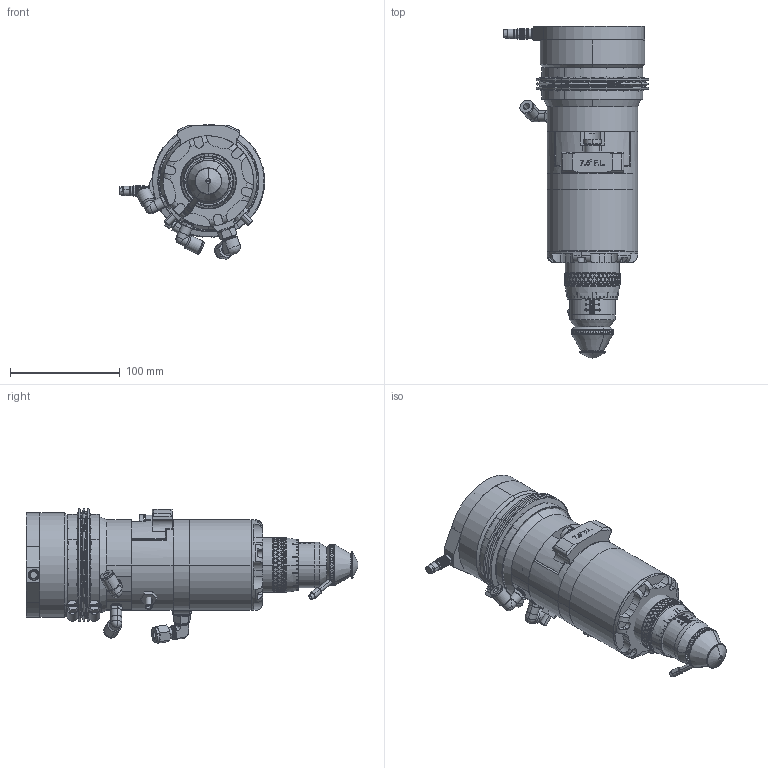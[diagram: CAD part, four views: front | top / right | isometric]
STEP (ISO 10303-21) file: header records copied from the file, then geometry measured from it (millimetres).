
FILE_DESCRIPTION (( 'STEP AP214' ), '1' );
FILE_NAME ('G5-38-191-AMX-CP.STEP', '2017-01-18T16:40:32', ( '' ), ( '' ), 'SwSTEP 2.0', 'SolidWorks 2017', '' );
FILE_SCHEMA (( 'AUTOMOTIVE_DESIGN' ));
Length unit declared in the file: inch
Products named in the file (1): G5-38-191-AMX-CP
Bounding box: 132.5 x 302.53 x 122.57 mm (x, y, z)
Volume: 1944483.6 mm3; surface area: 424837.5 mm2
Topology: 100 solids, 100 shells, 5715 faces, 14101 edges, 8779 vertices
Faces by surface type: plane 3280, cylinder 1412, cone 726, torus 184, bspline 99, sphere 14
Entity records: 176098 total; most frequent: CARTESIAN_POINT 45304, ORIENTED_EDGE 28142, DIRECTION 25700, EDGE_CURVE 14071, AXIS2_PLACEMENT_3D 9253, VERTEX_POINT 8770, LINE 7194, VECTOR 7194
